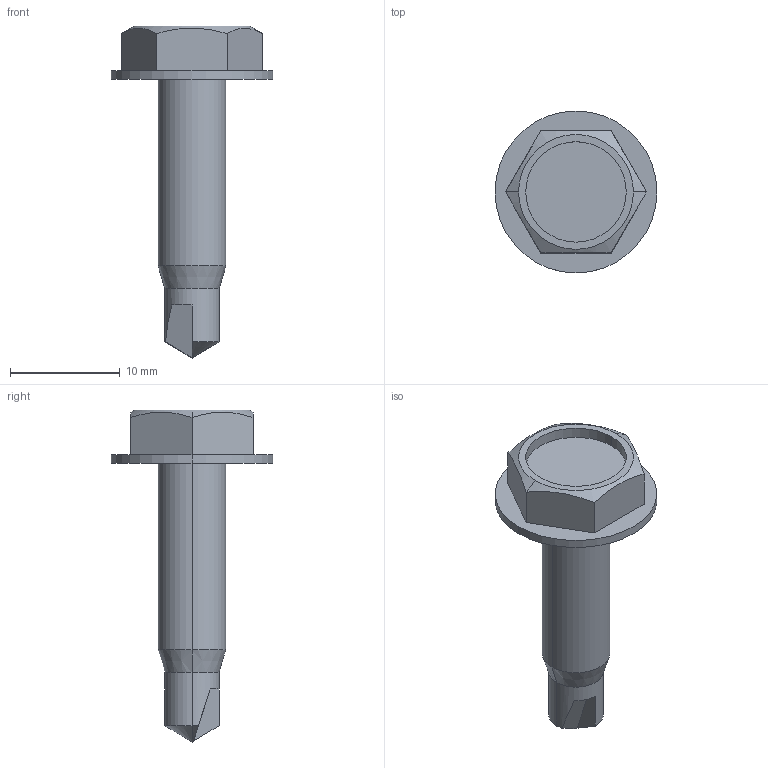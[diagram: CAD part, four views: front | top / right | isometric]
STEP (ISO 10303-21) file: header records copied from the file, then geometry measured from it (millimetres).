
FILE_DESCRIPTION((''),'2;1');
FILE_NAME('807-1937','2023-03-13T',('jenni.wallner'),(''),'PRO/ENGINEER BY PARAMETRIC TECHNOLOGY CORPORATION, 2012420','PRO/ENGINEER BY PARAMETRIC TECHNOLOGY CORPORATION, 2012420','');
FILE_SCHEMA(('CONFIG_CONTROL_DESIGN'));
Length unit declared in the file: inch
Products named in the file (1): 807-1937
Bounding box: 14.73 x 14.73 x 30.23 mm (x, y, z)
Volume: 1141.1 mm3; surface area: 992.6 mm2
Topology: 1 solids, 1 shells, 30 faces, 70 edges, 43 vertices
Faces by surface type: plane 16, cylinder 8, cone 6
Entity records: 972 total; most frequent: CARTESIAN_POINT 255, DIRECTION 140, ORIENTED_EDGE 136, EDGE_CURVE 68, AXIS2_PLACEMENT_3D 52, VERTEX_POINT 43, VECTOR 36, LINE 36
